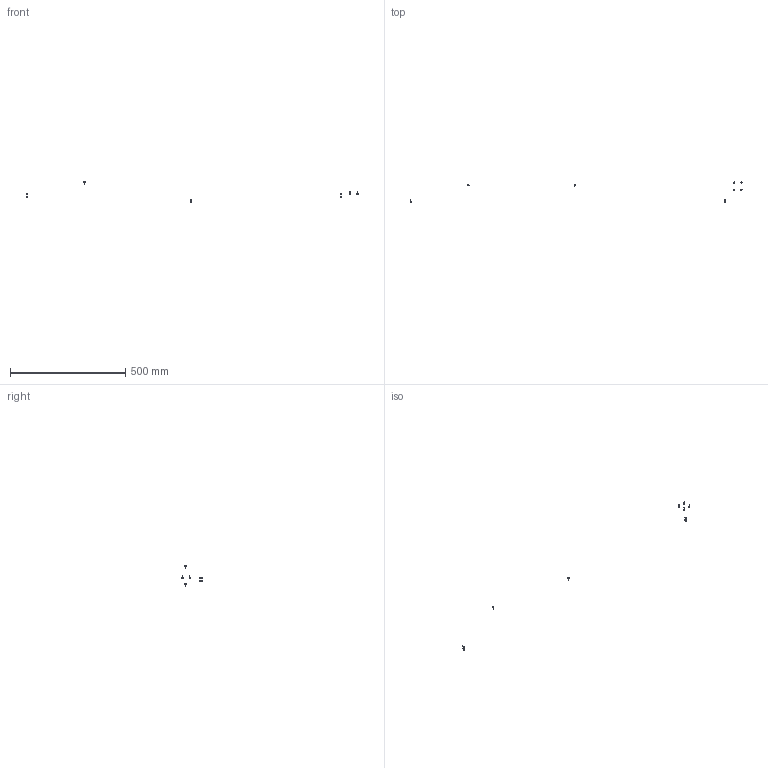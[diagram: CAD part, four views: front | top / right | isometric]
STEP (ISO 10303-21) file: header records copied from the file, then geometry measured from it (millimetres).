
FILE_DESCRIPTION(/* description */ (''),/* implementation_level */ '2;1');
FILE_NAME(/* name */ 'X-3A05~1',/* time_stamp */ '2014-02-14T19:45:31+01:00',/* author */ (''),/* organization */ (''),/* preprocessor_version */ 'ST-DEVELOPER v14',/* originating_system */ '',/* authorisation */ '');
FILE_SCHEMA (('AUTOMOTIVE_DESIGN'));
Length unit declared in the file: millimetre
Products named in the file (2): Document; screw DIN912-like, M3x10
Assembly tree (8 placements, depth 2):
  Document
    screw DIN912-like, M3x10  x8
Bounding box: 1441.59 x 87.95 x 92 mm (x, y, z)
Volume: 1324.6 mm3; surface area: 2018.4 mm2
Topology: 10 solids, 10 shells, 250 faces, 560 edges, 330 vertices
Faces by surface type: plane 150, bspline 100
Entity records: 4173 total; most frequent: CARTESIAN_POINT 1895, B_SPLINE_CURVE_WITH_KNOTS 378, ORIENTED_EDGE 324, PCURVE 324, DEFINITIONAL_REPRESENTATION 324, SURFACE_CURVE 162, EDGE_CURVE 162, VERTEX_POINT 99
